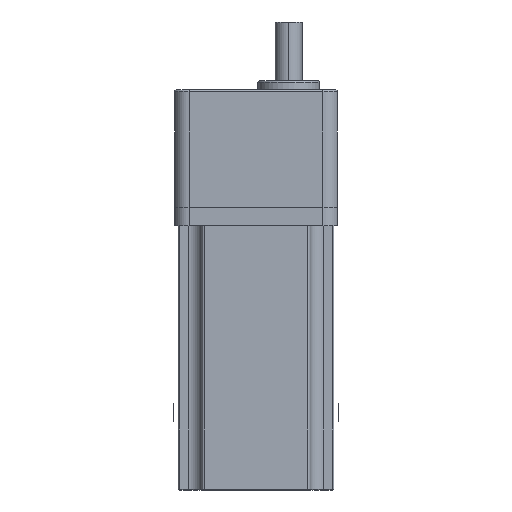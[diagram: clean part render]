
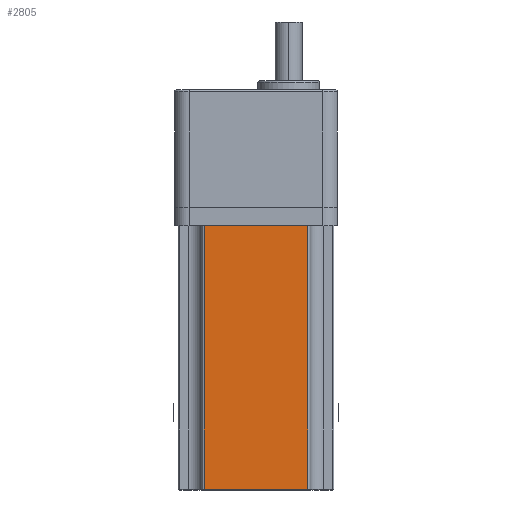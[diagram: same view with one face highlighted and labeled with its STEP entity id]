
A CAD part, front view. The second image highlights one B-rep face of the part: STEP entity #2805.
In plain terms, the highlighted planar face has unit normal (0, -1, 0).
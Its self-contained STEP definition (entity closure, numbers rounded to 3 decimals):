
#50 = DIRECTION ( 'NONE',  ( 0., 0., 1. ) ) ;
#69 = VECTOR ( 'NONE', #3514, 1000. ) ;
#149 = CARTESIAN_POINT ( 'NONE',  ( 47.087, -54.139, 0.75 ) ) ;
#167 = LINE ( 'NONE', #3530, #69 ) ;
#1304 = CARTESIAN_POINT ( 'NONE',  ( 47.087, -54.139, 146.75 ) ) ;
#1345 = ORIENTED_EDGE ( 'NONE', *, *, #2529, .T. ) ;
#1514 = LINE ( 'NONE', #4601, #1790 ) ;
#1668 = EDGE_CURVE ( 'NONE', #3278, #4347, #2681, .T. ) ;
#1790 = VECTOR ( 'NONE', #4605, 1000. ) ;
#1797 = VERTEX_POINT ( 'NONE', #1304 ) ;
#1831 = EDGE_LOOP ( 'NONE', ( #2399, #2094, #1345, #3907 ) ) ;
#1836 = EDGE_CURVE ( 'NONE', #1797, #2280, #1514, .T. ) ;
#1892 = CARTESIAN_POINT ( 'NONE',  ( -10.357, -54.139, 1.25 ) ) ;
#1922 = VECTOR ( 'NONE', #50, 1000. ) ;
#2013 = EDGE_CURVE ( 'NONE', #3278, #2280, #167, .T. ) ;
#2094 = ORIENTED_EDGE ( 'NONE', *, *, #1668, .T. ) ;
#2280 = VERTEX_POINT ( 'NONE', #2323 ) ;
#2323 = CARTESIAN_POINT ( 'NONE',  ( -10.357, -54.139, 146.75 ) ) ;
#2399 = ORIENTED_EDGE ( 'NONE', *, *, #2013, .F. ) ;
#2516 = AXIS2_PLACEMENT_3D ( 'NONE', #4041, #3932, #3928 ) ;
#2519 = CARTESIAN_POINT ( 'NONE',  ( 47.087, -54.139, 1.25 ) ) ;
#2529 = EDGE_CURVE ( 'NONE', #4347, #1797, #2877, .T. ) ;
#2634 = VECTOR ( 'NONE', #2818, 1000. ) ;
#2681 = LINE ( 'NONE', #2709, #2634 ) ;
#2709 = CARTESIAN_POINT ( 'NONE',  ( 47.087, -54.139, 1.25 ) ) ;
#2805 = ADVANCED_FACE ( 'NONE', ( #2999 ), #3985, .F. ) ;
#2818 = DIRECTION ( 'NONE',  ( 1., 0., 0. ) ) ;
#2877 = LINE ( 'NONE', #149, #1922 ) ;
#2999 = FACE_OUTER_BOUND ( 'NONE', #1831, .T. ) ;
#3278 = VERTEX_POINT ( 'NONE', #1892 ) ;
#3514 = DIRECTION ( 'NONE',  ( 0., 0., 1. ) ) ;
#3530 = CARTESIAN_POINT ( 'NONE',  ( -10.357, -54.139, 0.75 ) ) ;
#3907 = ORIENTED_EDGE ( 'NONE', *, *, #1836, .T. ) ;
#3928 = DIRECTION ( 'NONE',  ( -1., 0., 0. ) ) ;
#3932 = DIRECTION ( 'NONE',  ( 0., 1., 0. ) ) ;
#3985 = PLANE ( 'NONE',  #2516 ) ;
#4041 = CARTESIAN_POINT ( 'NONE',  ( 0., -54.139, 0.75 ) ) ;
#4347 = VERTEX_POINT ( 'NONE', #2519 ) ;
#4601 = CARTESIAN_POINT ( 'NONE',  ( 0., -54.139, 146.75 ) ) ;
#4605 = DIRECTION ( 'NONE',  ( -1., 0., 0. ) ) ;
